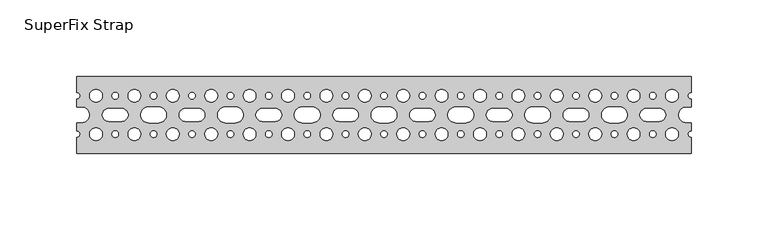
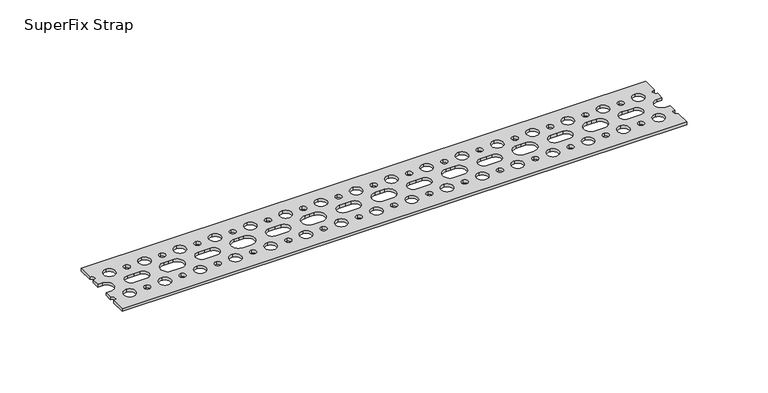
"""IFC4 building model written with IfcOpenShell, lengths in millimetres: valve geometry, Superfix Strap : SuperFix Strap."""

import ifcopenshell
import ifcopenshell.guid

model = None  # the IFC model being written
_history = None  # IfcOwnerHistory: only IFC2X3 demands one
_inside = {}  # id of a spatial element -> (the spatial element, [elements in it])
_under = {}  # id of a project, library or spatial element -> (it, [spatial elements below it])
_declared = {}  # id of a project -> (the project, [libraries it declares])
_typed = {}  # id of a type object -> (the type object, [elements of that type])
_made_of = {}  # id of a material, layer set ... -> (it, [elements and type objects made of it])


def new_model(schema):
    """Start an empty IFC model of exactly this schema.

    Asked for "IFC4X3", IfcOpenShell would pick the latest addendum, in which some entities
    have other attributes; the version numbers below select the first issue.
    IFC2X3 requires an IfcOwnerHistory on every rooted entity: one is made here for all.
    """
    global model, _history
    if schema == "IFC4X3":
        model = ifcopenshell.file(schema_version=(4, 3, 0, 0))
    else:
        model = ifcopenshell.file(schema=schema)
    _inside.clear()
    _under.clear()
    _declared.clear()
    _typed.clear()
    _made_of.clear()
    _history = None
    if model.schema == "IFC2X3":
        org = make("IfcOrganization", Name="unknown")
        user = make(
            "IfcPersonAndOrganization",
            ThePerson=make("IfcPerson", FamilyName="unknown"),
            TheOrganization=org,
        )
        app = make(
            "IfcApplication",
            ApplicationDeveloper=org,
            Version="unknown",
            ApplicationFullName="unknown",
            ApplicationIdentifier="unknown",
        )
        _history = make(
            "IfcOwnerHistory",
            OwningUser=user,
            OwningApplication=app,
            ChangeAction="ADDED",
            CreationDate=0,
        )
    return model


def make(cls, **values):
    """One entity of the class cls with the attributes given. An attribute that is None is left unset."""
    return model.create_entity(
        cls, **{name: value for name, value in values.items() if value is not None}
    )


def rooted(cls, **values):
    """An entity with a GlobalId (a new one), such as an element, a storey or a relation."""
    return make(cls, GlobalId=ifcopenshell.guid.new(), OwnerHistory=_history, **values)


def si_unit(unit_type, name, prefix=None):
    """IfcSIUnit, for example si_unit("LENGTHUNIT", "METRE", prefix="MILLI")."""
    return make("IfcSIUnit", UnitType=unit_type, Prefix=prefix, Name=name)


def assignment(units):
    """IfcUnitAssignment: the units of a project."""
    return None if units is None else make("IfcUnitAssignment", Units=units)


def point(xyz):
    """IfcCartesianPoint."""
    return None if xyz is None else make("IfcCartesianPoint", Coordinates=xyz)


def direction(xyz):
    """IfcDirection."""
    return None if xyz is None else make("IfcDirection", DirectionRatios=xyz)


def frame(location, z_axis=None, x_axis=None):
    """IfcAxis2Placement3D, a coordinate frame: its origin and axes. An axis left out is left unset."""
    return make(
        "IfcAxis2Placement3D",
        Location=point(location),
        Axis=direction(z_axis),
        RefDirection=direction(x_axis),
    )


def frame_2d(location, x_axis=None):
    """IfcAxis2Placement2D, a coordinate frame in the plane: its origin and x axis."""
    return make(
        "IfcAxis2Placement2D", Location=point(location), RefDirection=direction(x_axis)
    )


def origin():
    """The frame at (0, 0, 0) with its axes left unset."""
    return frame((0.0, 0.0, 0.0))


def origin_with_axes():
    """The frame at (0, 0, 0) with the z axis (0, 0, 1) and the x axis (1, 0, 0) written out."""
    return frame((0.0, 0.0, 0.0), z_axis=(0.0, 0.0, 1.0), x_axis=(1.0, 0.0, 0.0))


def place(relative_to, where):
    """IfcLocalPlacement: puts the frame where relative to a parent placement (None: the world)."""
    return make(
        "IfcLocalPlacement", PlacementRelTo=relative_to, RelativePlacement=where
    )


def context(
    kind, dimensions, precision=None, world=None, true_north=None, identifier=None
):
    """IfcGeometricRepresentationContext, for example the 3D "Model" context."""
    return make(
        "IfcGeometricRepresentationContext",
        ContextIdentifier=identifier,
        ContextType=kind,
        CoordinateSpaceDimension=dimensions,
        Precision=precision,
        WorldCoordinateSystem=world,
        TrueNorth=true_north,
    )


def project(units=None, contexts=None):
    """IfcProject with its units and contexts."""
    return rooted(
        "IfcProject",
        Name="project",
        RepresentationContexts=contexts,
        UnitsInContext=assignment(units),
    )


def spatial(cls, under=None, at=None, **own):
    """A site, building, storey or space (cls), placed at a placement, below another one or the project."""
    s = rooted(cls, ObjectPlacement=at, **own)
    if under is not None:
        _under.setdefault(under.id(), (under, []))[1].append(s)
    return s


def polyline(points):
    """IfcPolyline through the points."""
    return make("IfcPolyline", Points=[point(p) for p in points])


def circle_curve(where, radius):
    """IfcCircle in the frame where."""
    return make("IfcCircle", Position=where, Radius=radius)


def trimmed(basis, trim1, trim2, sense, master):
    """IfcTrimmedCurve: the piece of a basis curve between two trims."""
    return make(
        "IfcTrimmedCurve",
        BasisCurve=basis,
        Trim1=trim1,
        Trim2=trim2,
        SenseAgreement=sense,
        MasterRepresentation=master,
    )


def segment(curve, same_sense, transition):
    """IfcCompositeCurveSegment."""
    return make(
        "IfcCompositeCurveSegment",
        Transition=transition,
        SameSense=same_sense,
        ParentCurve=curve,
    )


def composite_curve(segments, self_intersect=None):
    """IfcCompositeCurve: segments joined end to end."""
    return make("IfcCompositeCurve", Segments=segments, SelfIntersect=self_intersect)


def outline(outer, holes=None, kind="AREA"):
    """IfcArbitraryClosedProfileDef: a profile drawn as a closed curve; with holes, ...WithVoids."""
    if holes is None:
        return make("IfcArbitraryClosedProfileDef", ProfileType=kind, OuterCurve=outer)
    return make(
        "IfcArbitraryProfileDefWithVoids",
        ProfileType=kind,
        OuterCurve=outer,
        InnerCurves=holes,
    )


def extrude(swept, where, along, depth):
    """IfcExtrudedAreaSolid: the profile swept, set in the frame where, extruded along a direction by depth."""
    return make(
        "IfcExtrudedAreaSolid",
        SweptArea=swept,
        Position=where,
        ExtrudedDirection=direction(along),
        Depth=depth,
    )


def shape(context_of_items, identifier, shape_type, items):
    """IfcShapeRepresentation: the items that make up one representation, for example the "Body"."""
    return make(
        "IfcShapeRepresentation",
        ContextOfItems=context_of_items,
        RepresentationIdentifier=identifier,
        RepresentationType=shape_type,
        Items=items,
    )


def source(mapping_origin, context_of_items, identifier, shape_type, items):
    """IfcRepresentationMap: a shape defined once, which mapped items show again and again."""
    return make(
        "IfcRepresentationMap",
        MappingOrigin=mapping_origin,
        MappedRepresentation=shape(context_of_items, identifier, shape_type, items),
    )


def transform(
    local_origin,
    x_axis=None,
    y_axis=None,
    z_axis=None,
    scale=None,
    scale2=None,
    scale3=None,
    uniform=True,
):
    """IfcCartesianTransformationOperator3D, or its non-uniform kind. x_axis, y_axis, z_axis: its Axis1, 2, 3."""
    if uniform:
        return make(
            "IfcCartesianTransformationOperator3D",
            Axis1=direction(x_axis),
            Axis2=direction(y_axis),
            LocalOrigin=point(local_origin),
            Scale=scale,
            Axis3=direction(z_axis),
        )
    return make(
        "IfcCartesianTransformationOperator3DnonUniform",
        Axis1=direction(x_axis),
        Axis2=direction(y_axis),
        LocalOrigin=point(local_origin),
        Scale=scale,
        Axis3=direction(z_axis),
        Scale2=scale2,
        Scale3=scale3,
    )


def mapped(mapping_source, mapping_target):
    """IfcMappedItem: shows the shape of a source again, moved by a transform."""
    return make(
        "IfcMappedItem", MappingSource=mapping_source, MappingTarget=mapping_target
    )


def made_of(thing, what):
    """Note that an element or type object is made of a material, layer set ...; save() writes the relation."""
    if what is not None:
        _made_of.setdefault(what.id(), (what, []))[1].append(thing)
    return thing


def element(
    cls,
    number,
    at=None,
    inside=None,
    cuts=None,
    type_object=None,
    material=None,
    context=None,
    identifier="Body",
    shape_type=None,
    held_by="IfcProductDefinitionShape",
    body=None,
    shapes=None,
    **own,
):
    """One element of the class cls, such as IfcWall. Its Tag is "e" and its number.

    at: its placement. inside: the storey or other place that contains it. cuts: it is an
    opening in that element (IfcRelVoidsElement). A single representation is given by context,
    identifier, shape_type and body (its items); several are given by shapes. held_by: the class
    of the entity that holds the representations. save() writes the other relations.
    """
    e = rooted(cls, Tag="e%d" % number, ObjectPlacement=at, **own)
    if body is not None:
        shapes = [shape(context, identifier, shape_type, body)]
    if shapes is not None:
        e.Representation = make(held_by, Representations=shapes)
    if inside is not None:
        _inside.setdefault(inside.id(), (inside, []))[1].append(e)
    if cuts is not None:
        rooted(
            "IfcRelVoidsElement", RelatingBuildingElement=cuts, RelatedOpeningElement=e
        )
    if type_object is not None:
        _typed.setdefault(type_object.id(), (type_object, []))[1].append(e)
    return made_of(e, material)


def aggregate(whole, parts):
    """IfcRelAggregates: a whole, such as a stair, and the parts it consists of."""
    return rooted("IfcRelAggregates", RelatingObject=whole, RelatedObjects=parts)


def save(model, path):
    """Write the relations noted so far, then the file.

    IfcRelAggregates (storeys below a building ...), IfcRelContainedInSpatialStructure (elements
    in a storey), IfcRelDefinesByType, IfcRelAssociatesMaterial and IfcRelDeclares: one each for
    every whole, place, type object, material and project.
    """
    for whole, parts in _under.values():
        aggregate(whole, parts)
    for where, things in _inside.values():
        rooted(
            "IfcRelContainedInSpatialStructure",
            RelatedElements=things,
            RelatingStructure=where,
        )
    for kind, things in _typed.values():
        rooted("IfcRelDefinesByType", RelatedObjects=things, RelatingType=kind)
    for what, things in _made_of.values():
        rooted("IfcRelAssociatesMaterial", RelatedObjects=things, RelatingMaterial=what)
    for by, libraries in _declared.values():
        rooted("IfcRelDeclares", RelatingContext=by, RelatedDefinitions=libraries)
    model.write(path)


def superfix_strap_92ff0648(model_context):
    return source(origin(), model_context, "Body", "SweptSolid", [
        extrude(outline(composite_curve([segment(polyline([(200.0, -25.0), (-200.0, -25.0), (-200.0, -14.65)]), True, "CONTINUOUS"), segment(trimmed(circle_curve(frame_2d((-200.0, -12.5)), 2.15), [point((-200.0, -14.65))], [point((-200.0, -10.35))], True, "CARTESIAN"), True, "CONTINUOUS"), segment(polyline([(-200.0, -10.35), (-200.0, -5.15), (-196.75, -5.15)]), True, "CONTINUOUS"), segment(trimmed(circle_curve(frame_2d((-196.75, 0.0)), 5.15), [point((-196.75, -5.15))], [point((-196.75, 5.15))], True, "CARTESIAN"), True, "CONTINUOUS"), segment(polyline([(-196.75, 5.15), (-200.0, 5.15), (-200.0, 10.35)]), True, "CONTINUOUS"), segment(trimmed(circle_curve(frame_2d((-200.0, 12.5)), 2.15), [point((-200.0, 10.35))], [point((-200.0, 14.65))], True, "CARTESIAN"), True, "CONTINUOUS"), segment(polyline([(-200.0, 14.65), (-200.0, 25.0), (200.0, 25.0), (200.0, 14.65)]), True, "CONTINUOUS"), segment(trimmed(circle_curve(frame_2d((200.0, 12.5)), 2.15), [point((200.0, 14.65))], [point((200.0, 10.35))], True, "CARTESIAN"), True, "CONTINUOUS"), segment(polyline([(200.0, 10.35), (200.0, 5.15), (196.75, 5.15)]), True, "CONTINUOUS"), segment(trimmed(circle_curve(frame_2d((196.75, 0.0)), 5.15), [point((196.75, 5.15))], [point((196.75, -5.15))], True, "CARTESIAN"), True, "CONTINUOUS"), segment(polyline([(196.75, -5.15), (200.0, -5.15), (200.0, -10.35)]), True, "CONTINUOUS"), segment(trimmed(circle_curve(frame_2d((200.0, -12.5)), 2.15), [point((200.0, -10.35))], [point((200.0, -14.65))], True, "CARTESIAN"), True, "CONTINUOUS"), segment(polyline([(200.0, -14.65), (200.0, -25.0)]), True, "CONTINUOUS")], self_intersect=False), holes=[composite_curve([segment(polyline([(25.0, 4.15), (20.75, 4.15)]), True, "CONTINUOUS"), segment(trimmed(circle_curve(frame_2d((20.75, 0.0)), 4.15), [point((20.75, 4.15))], [point((20.75, -4.15))], True, "CARTESIAN"), True, "CONTINUOUS"), segment(polyline([(20.75, -4.15), (25.0, -4.15), (29.25, -4.15)]), True, "CONTINUOUS"), segment(trimmed(circle_curve(frame_2d((29.25, 0.0)), 4.15), [point((29.25, -4.15))], [point((29.25, 4.15))], True, "CARTESIAN"), True, "CONTINUOUS"), segment(polyline([(29.25, 4.15), (25.0, 4.15)]), True, "CONTINUOUS")], self_intersect=False), composite_curve([segment(polyline([(0.0, 5.15), (-3.25, 5.15)]), True, "CONTINUOUS"), segment(trimmed(circle_curve(frame_2d((-3.25, 0.0)), 5.15), [point((-3.25, 5.15))], [point((-3.25, -5.15))], True, "CARTESIAN"), True, "CONTINUOUS"), segment(polyline([(-3.25, -5.15), (0.0, -5.15), (3.25, -5.15)]), True, "CONTINUOUS"), segment(trimmed(circle_curve(frame_2d((3.25, 0.0)), 5.15), [point((3.25, -5.15))], [point((3.25, 5.15))], True, "CARTESIAN"), True, "CONTINUOUS"), segment(polyline([(3.25, 5.15), (0.0, 5.15)]), True, "CONTINUOUS")], self_intersect=False), composite_curve([segment(trimmed(circle_curve(frame_2d((0.0, 12.5)), 2.15), [point((0.0, 14.65))], [point((0.0, 10.35))], True, "CARTESIAN"), True, "CONTINUOUS"), segment(trimmed(circle_curve(frame_2d((0.0, 12.5)), 2.15), [point((0.0, 10.35))], [point((0.0, 14.65))], True, "CARTESIAN"), True, "CONTINUOUS")], self_intersect=False), composite_curve([segment(trimmed(circle_curve(frame_2d((25.0, 12.5)), 2.15), [point((25.0, 14.65))], [point((25.0, 10.35))], True, "CARTESIAN"), True, "CONTINUOUS"), segment(trimmed(circle_curve(frame_2d((25.0, 12.5)), 2.15), [point((25.0, 10.35))], [point((25.0, 14.65))], True, "CARTESIAN"), True, "CONTINUOUS")], self_intersect=False), composite_curve([segment(trimmed(circle_curve(frame_2d((25.0, -12.5)), 2.15), [point((25.0, -10.35))], [point((25.0, -14.65))], True, "CARTESIAN"), True, "CONTINUOUS"), segment(trimmed(circle_curve(frame_2d((25.0, -12.5)), 2.15), [point((25.0, -14.65))], [point((25.0, -10.35))], True, "CARTESIAN"), True, "CONTINUOUS")], self_intersect=False), composite_curve([segment(trimmed(circle_curve(frame_2d((0.0, -12.5)), 2.15), [point((0.0, -10.35))], [point((0.0, -14.65))], True, "CARTESIAN"), True, "CONTINUOUS"), segment(trimmed(circle_curve(frame_2d((0.0, -12.5)), 2.15), [point((0.0, -14.65))], [point((0.0, -10.35))], True, "CARTESIAN"), True, "CONTINUOUS")], self_intersect=False), composite_curve([segment(trimmed(circle_curve(frame_2d((12.5, 12.5)), 4.15), [point((12.5, 16.65))], [point((12.5, 8.35))], True, "CARTESIAN"), True, "CONTINUOUS"), segment(trimmed(circle_curve(frame_2d((12.5, 12.5)), 4.15), [point((12.5, 8.35))], [point((12.5, 16.65))], True, "CARTESIAN"), True, "CONTINUOUS")], self_intersect=False), composite_curve([segment(trimmed(circle_curve(frame_2d((12.5, -12.5)), 4.15), [point((12.5, -8.35))], [point((12.5, -16.65))], True, "CARTESIAN"), True, "CONTINUOUS"), segment(trimmed(circle_curve(frame_2d((12.5, -12.5)), 4.15), [point((12.5, -16.65))], [point((12.5, -8.35))], True, "CARTESIAN"), True, "CONTINUOUS")], self_intersect=False), composite_curve([segment(trimmed(circle_curve(frame_2d((37.5, 12.5)), 4.15), [point((37.5, 16.65))], [point((37.5, 8.35))], True, "CARTESIAN"), True, "CONTINUOUS"), segment(trimmed(circle_curve(frame_2d((37.5, 12.5)), 4.15), [point((37.5, 8.35))], [point((37.5, 16.65))], True, "CARTESIAN"), True, "CONTINUOUS")], self_intersect=False), composite_curve([segment(trimmed(circle_curve(frame_2d((37.5, -12.5)), 4.15), [point((37.5, -8.35))], [point((37.5, -16.65))], True, "CARTESIAN"), True, "CONTINUOUS"), segment(trimmed(circle_curve(frame_2d((37.5, -12.5)), 4.15), [point((37.5, -16.65))], [point((37.5, -8.35))], True, "CARTESIAN"), True, "CONTINUOUS")], self_intersect=False), composite_curve([segment(trimmed(circle_curve(frame_2d((-20.75, 0.0)), 4.15), [point((-20.75, -4.15))], [point((-20.75, 4.15))], True, "CARTESIAN"), True, "CONTINUOUS"), segment(polyline([(-20.75, 4.15), (-25.0, 4.15), (-29.25, 4.15)]), True, "CONTINUOUS"), segment(trimmed(circle_curve(frame_2d((-29.25, 0.0)), 4.15), [point((-29.25, 4.15))], [point((-29.25, -4.15))], True, "CARTESIAN"), True, "CONTINUOUS"), segment(polyline([(-29.25, -4.15), (-25.0, -4.15), (-20.75, -4.15)]), True, "CONTINUOUS")], self_intersect=False), composite_curve([segment(trimmed(circle_curve(frame_2d((-25.0, 12.5)), 2.15), [point((-25.0, 14.65))], [point((-25.0, 10.35))], True, "CARTESIAN"), True, "CONTINUOUS"), segment(trimmed(circle_curve(frame_2d((-25.0, 12.5)), 2.15), [point((-25.0, 10.35))], [point((-25.0, 14.65))], True, "CARTESIAN"), True, "CONTINUOUS")], self_intersect=False), composite_curve([segment(trimmed(circle_curve(frame_2d((-25.0, -12.5)), 2.15), [point((-25.0, -10.35))], [point((-25.0, -14.65))], True, "CARTESIAN"), True, "CONTINUOUS"), segment(trimmed(circle_curve(frame_2d((-25.0, -12.5)), 2.15), [point((-25.0, -14.65))], [point((-25.0, -10.35))], True, "CARTESIAN"), True, "CONTINUOUS")], self_intersect=False), composite_curve([segment(trimmed(circle_curve(frame_2d((-12.5, 12.5)), 4.15), [point((-12.5, 16.65))], [point((-12.5, 8.35))], True, "CARTESIAN"), True, "CONTINUOUS"), segment(trimmed(circle_curve(frame_2d((-12.5, 12.5)), 4.15), [point((-12.5, 8.35))], [point((-12.5, 16.65))], True, "CARTESIAN"), True, "CONTINUOUS")], self_intersect=False), composite_curve([segment(trimmed(circle_curve(frame_2d((-12.5, -12.5)), 4.15), [point((-12.5, -8.35))], [point((-12.5, -16.65))], True, "CARTESIAN"), True, "CONTINUOUS"), segment(trimmed(circle_curve(frame_2d((-12.5, -12.5)), 4.15), [point((-12.5, -16.65))], [point((-12.5, -8.35))], True, "CARTESIAN"), True, "CONTINUOUS")], self_intersect=False), composite_curve([segment(polyline([(46.75, -5.15), (50.0, -5.15), (53.25, -5.15)]), True, "CONTINUOUS"), segment(trimmed(circle_curve(frame_2d((53.25, 0.0)), 5.15), [point((53.25, -5.15))], [point((53.25, 5.15))], True, "CARTESIAN"), True, "CONTINUOUS"), segment(polyline([(53.25, 5.15), (50.0, 5.15), (46.75, 5.15)]), True, "CONTINUOUS"), segment(trimmed(circle_curve(frame_2d((46.75, 0.0)), 5.15), [point((46.75, 5.15))], [point((46.75, -5.15))], True, "CARTESIAN"), True, "CONTINUOUS")], self_intersect=False), composite_curve([segment(trimmed(circle_curve(frame_2d((50.0, 12.5)), 2.15), [point((50.0, 14.65))], [point((50.0, 10.35))], True, "CARTESIAN"), True, "CONTINUOUS"), segment(trimmed(circle_curve(frame_2d((50.0, 12.5)), 2.15), [point((50.0, 10.35))], [point((50.0, 14.65))], True, "CARTESIAN"), True, "CONTINUOUS")], self_intersect=False), composite_curve([segment(trimmed(circle_curve(frame_2d((50.0, -12.5)), 2.15), [point((50.0, -10.35))], [point((50.0, -14.65))], True, "CARTESIAN"), True, "CONTINUOUS"), segment(trimmed(circle_curve(frame_2d((50.0, -12.5)), 2.15), [point((50.0, -14.65))], [point((50.0, -10.35))], True, "CARTESIAN"), True, "CONTINUOUS")], self_intersect=False), composite_curve([segment(trimmed(circle_curve(frame_2d((-37.5, 12.5)), 4.15), [point((-37.5, 16.65))], [point((-37.5, 8.35))], True, "CARTESIAN"), True, "CONTINUOUS"), segment(trimmed(circle_curve(frame_2d((-37.5, 12.5)), 4.15), [point((-37.5, 8.35))], [point((-37.5, 16.65))], True, "CARTESIAN"), True, "CONTINUOUS")], self_intersect=False), composite_curve([segment(trimmed(circle_curve(frame_2d((-37.5, -12.5)), 4.15), [point((-37.5, -8.35))], [point((-37.5, -16.65))], True, "CARTESIAN"), True, "CONTINUOUS"), segment(trimmed(circle_curve(frame_2d((-37.5, -12.5)), 4.15), [point((-37.5, -16.65))], [point((-37.5, -8.35))], True, "CARTESIAN"), True, "CONTINUOUS")], self_intersect=False), composite_curve([segment(polyline([(125.0, 4.15), (120.75, 4.15)]), True, "CONTINUOUS"), segment(trimmed(circle_curve(frame_2d((120.75, 0.0)), 4.15), [point((120.75, 4.15))], [point((120.75, -4.15))], True, "CARTESIAN"), True, "CONTINUOUS"), segment(polyline([(120.75, -4.15), (125.0, -4.15), (129.25, -4.15)]), True, "CONTINUOUS"), segment(trimmed(circle_curve(frame_2d((129.25, 0.0)), 4.15), [point((129.25, -4.15))], [point((129.25, 4.15))], True, "CARTESIAN"), True, "CONTINUOUS"), segment(polyline([(129.25, 4.15), (125.0, 4.15)]), True, "CONTINUOUS")], self_intersect=False), composite_curve([segment(polyline([(100.0, 5.15), (96.75, 5.15)]), True, "CONTINUOUS"), segment(trimmed(circle_curve(frame_2d((96.75, 0.0)), 5.15), [point((96.75, 5.15))], [point((96.75, -5.15))], True, "CARTESIAN"), True, "CONTINUOUS"), segment(polyline([(96.75, -5.15), (100.0, -5.15), (103.25, -5.15)]), True, "CONTINUOUS"), segment(trimmed(circle_curve(frame_2d((103.25, 0.0)), 5.15), [point((103.25, -5.15))], [point((103.25, 5.15))], True, "CARTESIAN"), True, "CONTINUOUS"), segment(polyline([(103.25, 5.15), (100.0, 5.15)]), True, "CONTINUOUS")], self_intersect=False), composite_curve([segment(trimmed(circle_curve(frame_2d((100.0, 12.5)), 2.15), [point((100.0, 14.65))], [point((100.0, 10.35))], True, "CARTESIAN"), True, "CONTINUOUS"), segment(trimmed(circle_curve(frame_2d((100.0, 12.5)), 2.15), [point((100.0, 10.35))], [point((100.0, 14.65))], True, "CARTESIAN"), True, "CONTINUOUS")], self_intersect=False), composite_curve([segment(trimmed(circle_curve(frame_2d((125.0, 12.5)), 2.15), [point((125.0, 14.65))], [point((125.0, 10.35))], True, "CARTESIAN"), True, "CONTINUOUS"), segment(trimmed(circle_curve(frame_2d((125.0, 12.5)), 2.15), [point((125.0, 10.35))], [point((125.0, 14.65))], True, "CARTESIAN"), True, "CONTINUOUS")], self_intersect=False), composite_curve([segment(trimmed(circle_curve(frame_2d((125.0, -12.5)), 2.15), [point((125.0, -10.35))], [point((125.0, -14.65))], True, "CARTESIAN"), True, "CONTINUOUS"), segment(trimmed(circle_curve(frame_2d((125.0, -12.5)), 2.15), [point((125.0, -14.65))], [point((125.0, -10.35))], True, "CARTESIAN"), True, "CONTINUOUS")], self_intersect=False), composite_curve([segment(trimmed(circle_curve(frame_2d((100.0, -12.5)), 2.15), [point((100.0, -10.35))], [point((100.0, -14.65))], True, "CARTESIAN"), True, "CONTINUOUS"), segment(trimmed(circle_curve(frame_2d((100.0, -12.5)), 2.15), [point((100.0, -14.65))], [point((100.0, -10.35))], True, "CARTESIAN"), True, "CONTINUOUS")], self_intersect=False), composite_curve([segment(trimmed(circle_curve(frame_2d((112.5, 12.5)), 4.15), [point((112.5, 16.65))], [point((112.5, 8.35))], True, "CARTESIAN"), True, "CONTINUOUS"), segment(trimmed(circle_curve(frame_2d((112.5, 12.5)), 4.15), [point((112.5, 8.35))], [point((112.5, 16.65))], True, "CARTESIAN"), True, "CONTINUOUS")], self_intersect=False), composite_curve([segment(trimmed(circle_curve(frame_2d((112.5, -12.5)), 4.15), [point((112.5, -8.35))], [point((112.5, -16.65))], True, "CARTESIAN"), True, "CONTINUOUS"), segment(trimmed(circle_curve(frame_2d((112.5, -12.5)), 4.15), [point((112.5, -16.65))], [point((112.5, -8.35))], True, "CARTESIAN"), True, "CONTINUOUS")], self_intersect=False), composite_curve([segment(trimmed(circle_curve(frame_2d((137.5, 12.5)), 4.15), [point((137.5, 16.65))], [point((137.5, 8.35))], True, "CARTESIAN"), True, "CONTINUOUS"), segment(trimmed(circle_curve(frame_2d((137.5, 12.5)), 4.15), [point((137.5, 8.35))], [point((137.5, 16.65))], True, "CARTESIAN"), True, "CONTINUOUS")], self_intersect=False), composite_curve([segment(trimmed(circle_curve(frame_2d((137.5, -12.5)), 4.15), [point((137.5, -8.35))], [point((137.5, -16.65))], True, "CARTESIAN"), True, "CONTINUOUS"), segment(trimmed(circle_curve(frame_2d((137.5, -12.5)), 4.15), [point((137.5, -16.65))], [point((137.5, -8.35))], True, "CARTESIAN"), True, "CONTINUOUS")], self_intersect=False), composite_curve([segment(trimmed(circle_curve(frame_2d((79.25, 0.0)), 4.15), [point((79.25, -4.15))], [point((79.25, 4.15))], True, "CARTESIAN"), True, "CONTINUOUS"), segment(polyline([(79.25, 4.15), (75.0, 4.15), (70.75, 4.15)]), True, "CONTINUOUS"), segment(trimmed(circle_curve(frame_2d((70.75, 0.0)), 4.15), [point((70.75, 4.15))], [point((70.75, -4.15))], True, "CARTESIAN"), True, "CONTINUOUS"), segment(polyline([(70.75, -4.15), (75.0, -4.15), (79.25, -4.15)]), True, "CONTINUOUS")], self_intersect=False), composite_curve([segment(trimmed(circle_curve(frame_2d((75.0, 12.5)), 2.15), [point((75.0, 14.65))], [point((75.0, 10.35))], True, "CARTESIAN"), True, "CONTINUOUS"), segment(trimmed(circle_curve(frame_2d((75.0, 12.5)), 2.15), [point((75.0, 10.35))], [point((75.0, 14.65))], True, "CARTESIAN"), True, "CONTINUOUS")], self_intersect=False), composite_curve([segment(trimmed(circle_curve(frame_2d((75.0, -12.5)), 2.15), [point((75.0, -10.35))], [point((75.0, -14.65))], True, "CARTESIAN"), True, "CONTINUOUS"), segment(trimmed(circle_curve(frame_2d((75.0, -12.5)), 2.15), [point((75.0, -14.65))], [point((75.0, -10.35))], True, "CARTESIAN"), True, "CONTINUOUS")], self_intersect=False), composite_curve([segment(trimmed(circle_curve(frame_2d((87.5, 12.5)), 4.15), [point((87.5, 16.65))], [point((87.5, 8.35))], True, "CARTESIAN"), True, "CONTINUOUS"), segment(trimmed(circle_curve(frame_2d((87.5, 12.5)), 4.15), [point((87.5, 8.35))], [point((87.5, 16.65))], True, "CARTESIAN"), True, "CONTINUOUS")], self_intersect=False), composite_curve([segment(trimmed(circle_curve(frame_2d((87.5, -12.5)), 4.15), [point((87.5, -8.35))], [point((87.5, -16.65))], True, "CARTESIAN"), True, "CONTINUOUS"), segment(trimmed(circle_curve(frame_2d((87.5, -12.5)), 4.15), [point((87.5, -16.65))], [point((87.5, -8.35))], True, "CARTESIAN"), True, "CONTINUOUS")], self_intersect=False), composite_curve([segment(polyline([(146.75, -5.15), (150.0, -5.15), (153.25, -5.15)]), True, "CONTINUOUS"), segment(trimmed(circle_curve(frame_2d((153.25, 0.0)), 5.15), [point((153.25, -5.15))], [point((153.25, 5.15))], True, "CARTESIAN"), True, "CONTINUOUS"), segment(polyline([(153.25, 5.15), (150.0, 5.15), (146.75, 5.15)]), True, "CONTINUOUS"), segment(trimmed(circle_curve(frame_2d((146.75, 0.0)), 5.15), [point((146.75, 5.15))], [point((146.75, -5.15))], True, "CARTESIAN"), True, "CONTINUOUS")], self_intersect=False), composite_curve([segment(trimmed(circle_curve(frame_2d((150.0, 12.5)), 2.15), [point((150.0, 14.65))], [point((150.0, 10.35))], True, "CARTESIAN"), True, "CONTINUOUS"), segment(trimmed(circle_curve(frame_2d((150.0, 12.5)), 2.15), [point((150.0, 10.35))], [point((150.0, 14.65))], True, "CARTESIAN"), True, "CONTINUOUS")], self_intersect=False), composite_curve([segment(trimmed(circle_curve(frame_2d((150.0, -12.5)), 2.15), [point((150.0, -10.35))], [point((150.0, -14.65))], True, "CARTESIAN"), True, "CONTINUOUS"), segment(trimmed(circle_curve(frame_2d((150.0, -12.5)), 2.15), [point((150.0, -14.65))], [point((150.0, -10.35))], True, "CARTESIAN"), True, "CONTINUOUS")], self_intersect=False), composite_curve([segment(trimmed(circle_curve(frame_2d((62.5, 12.5)), 4.15), [point((62.5, 16.65))], [point((62.5, 8.35))], True, "CARTESIAN"), True, "CONTINUOUS"), segment(trimmed(circle_curve(frame_2d((62.5, 12.5)), 4.15), [point((62.5, 8.35))], [point((62.5, 16.65))], True, "CARTESIAN"), True, "CONTINUOUS")], self_intersect=False), composite_curve([segment(trimmed(circle_curve(frame_2d((62.5, -12.5)), 4.15), [point((62.5, -8.35))], [point((62.5, -16.65))], True, "CARTESIAN"), True, "CONTINUOUS"), segment(trimmed(circle_curve(frame_2d((62.5, -12.5)), 4.15), [point((62.5, -16.65))], [point((62.5, -8.35))], True, "CARTESIAN"), True, "CONTINUOUS")], self_intersect=False), composite_curve([segment(polyline([(-75.0, 4.15), (-79.25, 4.15)]), True, "CONTINUOUS"), segment(trimmed(circle_curve(frame_2d((-79.25, 0.0)), 4.15), [point((-79.25, 4.15))], [point((-79.25, -4.15))], True, "CARTESIAN"), True, "CONTINUOUS"), segment(polyline([(-79.25, -4.15), (-75.0, -4.15), (-70.75, -4.15)]), True, "CONTINUOUS"), segment(trimmed(circle_curve(frame_2d((-70.75, 0.0)), 4.15), [point((-70.75, -4.15))], [point((-70.75, 4.15))], True, "CARTESIAN"), True, "CONTINUOUS"), segment(polyline([(-70.75, 4.15), (-75.0, 4.15)]), True, "CONTINUOUS")], self_intersect=False), composite_curve([segment(polyline([(-100.0, 5.15), (-103.25, 5.15)]), True, "CONTINUOUS"), segment(trimmed(circle_curve(frame_2d((-103.25, 0.0)), 5.15), [point((-103.25, 5.15))], [point((-103.25, -5.15))], True, "CARTESIAN"), True, "CONTINUOUS"), segment(polyline([(-103.25, -5.15), (-100.0, -5.15), (-96.75, -5.15)]), True, "CONTINUOUS"), segment(trimmed(circle_curve(frame_2d((-96.75, 0.0)), 5.15), [point((-96.75, -5.15))], [point((-96.75, 5.15))], True, "CARTESIAN"), True, "CONTINUOUS"), segment(polyline([(-96.75, 5.15), (-100.0, 5.15)]), True, "CONTINUOUS")], self_intersect=False), composite_curve([segment(trimmed(circle_curve(frame_2d((-100.0, 12.5)), 2.15), [point((-100.0, 14.65))], [point((-100.0, 10.35))], True, "CARTESIAN"), True, "CONTINUOUS"), segment(trimmed(circle_curve(frame_2d((-100.0, 12.5)), 2.15), [point((-100.0, 10.35))], [point((-100.0, 14.65))], True, "CARTESIAN"), True, "CONTINUOUS")], self_intersect=False), composite_curve([segment(trimmed(circle_curve(frame_2d((-75.0, 12.5)), 2.15), [point((-75.0, 14.65))], [point((-75.0, 10.35))], True, "CARTESIAN"), True, "CONTINUOUS"), segment(trimmed(circle_curve(frame_2d((-75.0, 12.5)), 2.15), [point((-75.0, 10.35))], [point((-75.0, 14.65))], True, "CARTESIAN"), True, "CONTINUOUS")], self_intersect=False), composite_curve([segment(trimmed(circle_curve(frame_2d((-75.0, -12.5)), 2.15), [point((-75.0, -10.35))], [point((-75.0, -14.65))], True, "CARTESIAN"), True, "CONTINUOUS"), segment(trimmed(circle_curve(frame_2d((-75.0, -12.5)), 2.15), [point((-75.0, -14.65))], [point((-75.0, -10.35))], True, "CARTESIAN"), True, "CONTINUOUS")], self_intersect=False), composite_curve([segment(trimmed(circle_curve(frame_2d((-100.0, -12.5)), 2.15), [point((-100.0, -10.35))], [point((-100.0, -14.65))], True, "CARTESIAN"), True, "CONTINUOUS"), segment(trimmed(circle_curve(frame_2d((-100.0, -12.5)), 2.15), [point((-100.0, -14.65))], [point((-100.0, -10.35))], True, "CARTESIAN"), True, "CONTINUOUS")], self_intersect=False), composite_curve([segment(trimmed(circle_curve(frame_2d((-87.5, 12.5)), 4.15), [point((-87.5, 16.65))], [point((-87.5, 8.35))], True, "CARTESIAN"), True, "CONTINUOUS"), segment(trimmed(circle_curve(frame_2d((-87.5, 12.5)), 4.15), [point((-87.5, 8.35))], [point((-87.5, 16.65))], True, "CARTESIAN"), True, "CONTINUOUS")], self_intersect=False), composite_curve([segment(trimmed(circle_curve(frame_2d((-87.5, -12.5)), 4.15), [point((-87.5, -8.35))], [point((-87.5, -16.65))], True, "CARTESIAN"), True, "CONTINUOUS"), segment(trimmed(circle_curve(frame_2d((-87.5, -12.5)), 4.15), [point((-87.5, -16.65))], [point((-87.5, -8.35))], True, "CARTESIAN"), True, "CONTINUOUS")], self_intersect=False), composite_curve([segment(trimmed(circle_curve(frame_2d((-62.5, 12.5)), 4.15), [point((-62.5, 16.65))], [point((-62.5, 8.35))], True, "CARTESIAN"), True, "CONTINUOUS"), segment(trimmed(circle_curve(frame_2d((-62.5, 12.5)), 4.15), [point((-62.5, 8.35))], [point((-62.5, 16.65))], True, "CARTESIAN"), True, "CONTINUOUS")], self_intersect=False), composite_curve([segment(trimmed(circle_curve(frame_2d((-62.5, -12.5)), 4.15), [point((-62.5, -8.35))], [point((-62.5, -16.65))], True, "CARTESIAN"), True, "CONTINUOUS"), segment(trimmed(circle_curve(frame_2d((-62.5, -12.5)), 4.15), [point((-62.5, -16.65))], [point((-62.5, -8.35))], True, "CARTESIAN"), True, "CONTINUOUS")], self_intersect=False), composite_curve([segment(trimmed(circle_curve(frame_2d((-120.75, 0.0)), 4.15), [point((-120.75, -4.15))], [point((-120.75, 4.15))], True, "CARTESIAN"), True, "CONTINUOUS"), segment(polyline([(-120.75, 4.15), (-125.0, 4.15), (-129.25, 4.15)]), True, "CONTINUOUS"), segment(trimmed(circle_curve(frame_2d((-129.25, 0.0)), 4.15), [point((-129.25, 4.15))], [point((-129.25, -4.15))], True, "CARTESIAN"), True, "CONTINUOUS"), segment(polyline([(-129.25, -4.15), (-125.0, -4.15), (-120.75, -4.15)]), True, "CONTINUOUS")], self_intersect=False), composite_curve([segment(trimmed(circle_curve(frame_2d((-125.0, 12.5)), 2.15), [point((-125.0, 14.65))], [point((-125.0, 10.35))], True, "CARTESIAN"), True, "CONTINUOUS"), segment(trimmed(circle_curve(frame_2d((-125.0, 12.5)), 2.15), [point((-125.0, 10.35))], [point((-125.0, 14.65))], True, "CARTESIAN"), True, "CONTINUOUS")], self_intersect=False), composite_curve([segment(trimmed(circle_curve(frame_2d((-125.0, -12.5)), 2.15), [point((-125.0, -10.35))], [point((-125.0, -14.65))], True, "CARTESIAN"), True, "CONTINUOUS"), segment(trimmed(circle_curve(frame_2d((-125.0, -12.5)), 2.15), [point((-125.0, -14.65))], [point((-125.0, -10.35))], True, "CARTESIAN"), True, "CONTINUOUS")], self_intersect=False), composite_curve([segment(trimmed(circle_curve(frame_2d((-112.5, 12.5)), 4.15), [point((-112.5, 16.65))], [point((-112.5, 8.35))], True, "CARTESIAN"), True, "CONTINUOUS"), segment(trimmed(circle_curve(frame_2d((-112.5, 12.5)), 4.15), [point((-112.5, 8.35))], [point((-112.5, 16.65))], True, "CARTESIAN"), True, "CONTINUOUS")], self_intersect=False), composite_curve([segment(trimmed(circle_curve(frame_2d((-112.5, -12.5)), 4.15), [point((-112.5, -8.35))], [point((-112.5, -16.65))], True, "CARTESIAN"), True, "CONTINUOUS"), segment(trimmed(circle_curve(frame_2d((-112.5, -12.5)), 4.15), [point((-112.5, -16.65))], [point((-112.5, -8.35))], True, "CARTESIAN"), True, "CONTINUOUS")], self_intersect=False), composite_curve([segment(polyline([(-53.25, -5.15), (-50.0, -5.15), (-46.75, -5.15)]), True, "CONTINUOUS"), segment(trimmed(circle_curve(frame_2d((-46.75, 0.0)), 5.15), [point((-46.75, -5.15))], [point((-46.75, 5.15))], True, "CARTESIAN"), True, "CONTINUOUS"), segment(polyline([(-46.75, 5.15), (-50.0, 5.15), (-53.25, 5.15)]), True, "CONTINUOUS"), segment(trimmed(circle_curve(frame_2d((-53.25, 0.0)), 5.15), [point((-53.25, 5.15))], [point((-53.25, -5.15))], True, "CARTESIAN"), True, "CONTINUOUS")], self_intersect=False), composite_curve([segment(trimmed(circle_curve(frame_2d((-50.0, 12.5)), 2.15), [point((-50.0, 14.65))], [point((-50.0, 10.35))], True, "CARTESIAN"), True, "CONTINUOUS"), segment(trimmed(circle_curve(frame_2d((-50.0, 12.5)), 2.15), [point((-50.0, 10.35))], [point((-50.0, 14.65))], True, "CARTESIAN"), True, "CONTINUOUS")], self_intersect=False), composite_curve([segment(trimmed(circle_curve(frame_2d((-50.0, -12.5)), 2.15), [point((-50.0, -10.35))], [point((-50.0, -14.65))], True, "CARTESIAN"), True, "CONTINUOUS"), segment(trimmed(circle_curve(frame_2d((-50.0, -12.5)), 2.15), [point((-50.0, -14.65))], [point((-50.0, -10.35))], True, "CARTESIAN"), True, "CONTINUOUS")], self_intersect=False), composite_curve([segment(trimmed(circle_curve(frame_2d((-137.5, 12.5)), 4.15), [point((-137.5, 16.65))], [point((-137.5, 8.35))], True, "CARTESIAN"), True, "CONTINUOUS"), segment(trimmed(circle_curve(frame_2d((-137.5, 12.5)), 4.15), [point((-137.5, 8.35))], [point((-137.5, 16.65))], True, "CARTESIAN"), True, "CONTINUOUS")], self_intersect=False), composite_curve([segment(trimmed(circle_curve(frame_2d((-137.5, -12.5)), 4.15), [point((-137.5, -8.35))], [point((-137.5, -16.65))], True, "CARTESIAN"), True, "CONTINUOUS"), segment(trimmed(circle_curve(frame_2d((-137.5, -12.5)), 4.15), [point((-137.5, -16.65))], [point((-137.5, -8.35))], True, "CARTESIAN"), True, "CONTINUOUS")], self_intersect=False), composite_curve([segment(trimmed(circle_curve(frame_2d((179.25, 0.0)), 4.15), [point((179.25, -4.15))], [point((179.25, 4.15))], True, "CARTESIAN"), True, "CONTINUOUS"), segment(polyline([(179.25, 4.15), (175.0, 4.15), (170.75, 4.15)]), True, "CONTINUOUS"), segment(trimmed(circle_curve(frame_2d((170.75, 0.0)), 4.15), [point((170.75, 4.15))], [point((170.75, -4.15))], True, "CARTESIAN"), True, "CONTINUOUS"), segment(polyline([(170.75, -4.15), (175.0, -4.15), (179.25, -4.15)]), True, "CONTINUOUS")], self_intersect=False), composite_curve([segment(trimmed(circle_curve(frame_2d((175.0, 12.5)), 2.15), [point((175.0, 14.65))], [point((175.0, 10.35))], True, "CARTESIAN"), True, "CONTINUOUS"), segment(trimmed(circle_curve(frame_2d((175.0, 12.5)), 2.15), [point((175.0, 10.35))], [point((175.0, 14.65))], True, "CARTESIAN"), True, "CONTINUOUS")], self_intersect=False), composite_curve([segment(trimmed(circle_curve(frame_2d((175.0, -12.5)), 2.15), [point((175.0, -10.35))], [point((175.0, -14.65))], True, "CARTESIAN"), True, "CONTINUOUS"), segment(trimmed(circle_curve(frame_2d((175.0, -12.5)), 2.15), [point((175.0, -14.65))], [point((175.0, -10.35))], True, "CARTESIAN"), True, "CONTINUOUS")], self_intersect=False), composite_curve([segment(trimmed(circle_curve(frame_2d((187.5, 12.5)), 4.15), [point((187.5, 16.65))], [point((187.5, 8.35))], True, "CARTESIAN"), True, "CONTINUOUS"), segment(trimmed(circle_curve(frame_2d((187.5, 12.5)), 4.15), [point((187.5, 8.35))], [point((187.5, 16.65))], True, "CARTESIAN"), True, "CONTINUOUS")], self_intersect=False), composite_curve([segment(trimmed(circle_curve(frame_2d((187.5, -12.5)), 4.15), [point((187.5, -8.35))], [point((187.5, -16.65))], True, "CARTESIAN"), True, "CONTINUOUS"), segment(trimmed(circle_curve(frame_2d((187.5, -12.5)), 4.15), [point((187.5, -16.65))], [point((187.5, -8.35))], True, "CARTESIAN"), True, "CONTINUOUS")], self_intersect=False), composite_curve([segment(trimmed(circle_curve(frame_2d((162.5, 12.5)), 4.15), [point((162.5, 16.65))], [point((162.5, 8.35))], True, "CARTESIAN"), True, "CONTINUOUS"), segment(trimmed(circle_curve(frame_2d((162.5, 12.5)), 4.15), [point((162.5, 8.35))], [point((162.5, 16.65))], True, "CARTESIAN"), True, "CONTINUOUS")], self_intersect=False), composite_curve([segment(trimmed(circle_curve(frame_2d((162.5, -12.5)), 4.15), [point((162.5, -8.35))], [point((162.5, -16.65))], True, "CARTESIAN"), True, "CONTINUOUS"), segment(trimmed(circle_curve(frame_2d((162.5, -12.5)), 4.15), [point((162.5, -16.65))], [point((162.5, -8.35))], True, "CARTESIAN"), True, "CONTINUOUS")], self_intersect=False), composite_curve([segment(polyline([(-175.0, 4.15), (-179.25, 4.15)]), True, "CONTINUOUS"), segment(trimmed(circle_curve(frame_2d((-179.25, 0.0)), 4.15), [point((-179.25, 4.15))], [point((-179.25, -4.15))], True, "CARTESIAN"), True, "CONTINUOUS"), segment(polyline([(-179.25, -4.15), (-175.0, -4.15), (-170.75, -4.15)]), True, "CONTINUOUS"), segment(trimmed(circle_curve(frame_2d((-170.75, 0.0)), 4.15), [point((-170.75, -4.15))], [point((-170.75, 4.15))], True, "CARTESIAN"), True, "CONTINUOUS"), segment(polyline([(-170.75, 4.15), (-175.0, 4.15)]), True, "CONTINUOUS")], self_intersect=False), composite_curve([segment(trimmed(circle_curve(frame_2d((-175.0, 12.5)), 2.15), [point((-175.0, 14.65))], [point((-175.0, 10.35))], True, "CARTESIAN"), True, "CONTINUOUS"), segment(trimmed(circle_curve(frame_2d((-175.0, 12.5)), 2.15), [point((-175.0, 10.35))], [point((-175.0, 14.65))], True, "CARTESIAN"), True, "CONTINUOUS")], self_intersect=False), composite_curve([segment(trimmed(circle_curve(frame_2d((-175.0, -12.5)), 2.15), [point((-175.0, -10.35))], [point((-175.0, -14.65))], True, "CARTESIAN"), True, "CONTINUOUS"), segment(trimmed(circle_curve(frame_2d((-175.0, -12.5)), 2.15), [point((-175.0, -14.65))], [point((-175.0, -10.35))], True, "CARTESIAN"), True, "CONTINUOUS")], self_intersect=False), composite_curve([segment(trimmed(circle_curve(frame_2d((-187.5, 12.5)), 4.15), [point((-187.5, 16.65))], [point((-187.5, 8.35))], True, "CARTESIAN"), True, "CONTINUOUS"), segment(trimmed(circle_curve(frame_2d((-187.5, 12.5)), 4.15), [point((-187.5, 8.35))], [point((-187.5, 16.65))], True, "CARTESIAN"), True, "CONTINUOUS")], self_intersect=False), composite_curve([segment(trimmed(circle_curve(frame_2d((-187.5, -12.5)), 4.15), [point((-187.5, -8.35))], [point((-187.5, -16.65))], True, "CARTESIAN"), True, "CONTINUOUS"), segment(trimmed(circle_curve(frame_2d((-187.5, -12.5)), 4.15), [point((-187.5, -16.65))], [point((-187.5, -8.35))], True, "CARTESIAN"), True, "CONTINUOUS")], self_intersect=False), composite_curve([segment(trimmed(circle_curve(frame_2d((-162.5, 12.5)), 4.15), [point((-162.5, 16.65))], [point((-162.5, 8.35))], True, "CARTESIAN"), True, "CONTINUOUS"), segment(trimmed(circle_curve(frame_2d((-162.5, 12.5)), 4.15), [point((-162.5, 8.35))], [point((-162.5, 16.65))], True, "CARTESIAN"), True, "CONTINUOUS")], self_intersect=False), composite_curve([segment(trimmed(circle_curve(frame_2d((-162.5, -12.5)), 4.15), [point((-162.5, -8.35))], [point((-162.5, -16.65))], True, "CARTESIAN"), True, "CONTINUOUS"), segment(trimmed(circle_curve(frame_2d((-162.5, -12.5)), 4.15), [point((-162.5, -16.65))], [point((-162.5, -8.35))], True, "CARTESIAN"), True, "CONTINUOUS")], self_intersect=False), composite_curve([segment(polyline([(-153.25, -5.15), (-150.0, -5.15), (-146.75, -5.15)]), True, "CONTINUOUS"), segment(trimmed(circle_curve(frame_2d((-146.75, 0.0)), 5.15), [point((-146.75, -5.15))], [point((-146.75, 5.15))], True, "CARTESIAN"), True, "CONTINUOUS"), segment(polyline([(-146.75, 5.15), (-150.0, 5.15), (-153.25, 5.15)]), True, "CONTINUOUS"), segment(trimmed(circle_curve(frame_2d((-153.25, 0.0)), 5.15), [point((-153.25, 5.15))], [point((-153.25, -5.15))], True, "CARTESIAN"), True, "CONTINUOUS")], self_intersect=False), composite_curve([segment(trimmed(circle_curve(frame_2d((-150.0, 12.5)), 2.15), [point((-150.0, 14.65))], [point((-150.0, 10.35))], True, "CARTESIAN"), True, "CONTINUOUS"), segment(trimmed(circle_curve(frame_2d((-150.0, 12.5)), 2.15), [point((-150.0, 10.35))], [point((-150.0, 14.65))], True, "CARTESIAN"), True, "CONTINUOUS")], self_intersect=False), composite_curve([segment(trimmed(circle_curve(frame_2d((-150.0, -12.5)), 2.15), [point((-150.0, -10.35))], [point((-150.0, -14.65))], True, "CARTESIAN"), True, "CONTINUOUS"), segment(trimmed(circle_curve(frame_2d((-150.0, -12.5)), 2.15), [point((-150.0, -14.65))], [point((-150.0, -10.35))], True, "CARTESIAN"), True, "CONTINUOUS")], self_intersect=False)]), origin_with_axes(), (0.0, 0.0, 1.0), 2.0),
    ])


if __name__ == "__main__":
    model = new_model("IFC4")
    model_context = context("Model", 3, world=origin())
    ifc_project = project(units=[si_unit("LENGTHUNIT", "METRE", prefix="MILLI")], contexts=[model_context])
    site = spatial("IfcSite", under=ifc_project)
    building = spatial("IfcBuilding", under=site)
    placement = place(None, origin())
    superfix_strap_shape = superfix_strap_92ff0648(model_context)
    element("IfcValve", 1, ObjectType="Superfix Strap : SuperFix Strap", at=placement, inside=building, context=model_context, shape_type="MappedRepresentation", body=[
        mapped(superfix_strap_shape, transform((0.0, 0.0, 0.0), x_axis=(1.0, 0.0, 0.0), y_axis=(0.0, 1.0, 0.0), z_axis=(0.0, 0.0, 1.0))),
    ])
    save(model, "model.ifc")
